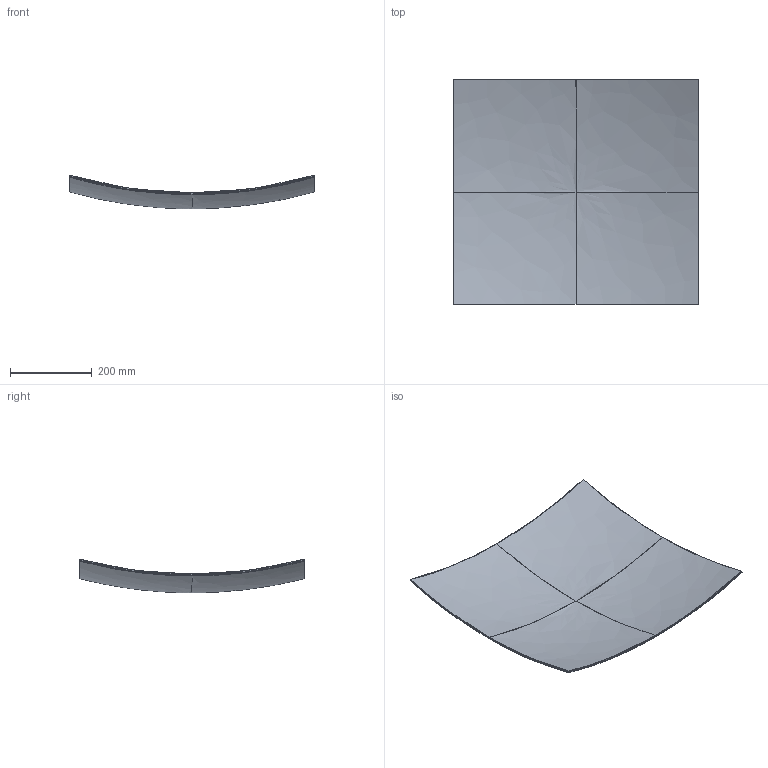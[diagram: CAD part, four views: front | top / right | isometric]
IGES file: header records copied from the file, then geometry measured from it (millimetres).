
Start section: C
Global section: file name: mirror.igs; native system:  By UGS Corp.; preprocessor: XPlus GENERIC/IGES 3.0; author: Author; organization: Title; date: 20110219.171058; units: millimetre
Bounding box: 600 x 550 x 82.55 mm (x, y, z)
Surface area: 1362355.9 mm2 (no closed solid volume)
Topology: 0 solids, 0 shells, 24 faces, 128 edges, 112 vertices
Faces by surface type: bspline 24
